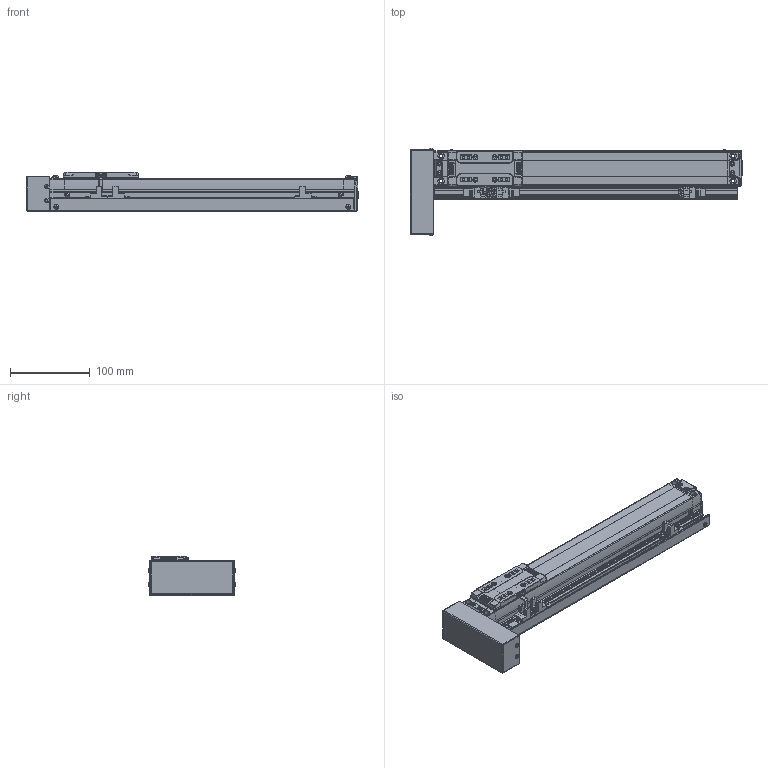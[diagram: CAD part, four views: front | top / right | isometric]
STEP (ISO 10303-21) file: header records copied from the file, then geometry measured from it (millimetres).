
FILE_DESCRIPTION(('STEP AP214'),'1');
FILE_NAME('Z:/Web/3D/SAN45/2013.ver/STP/SAN45-250PR+3SR.stp','2013-05-15T00:30:28',(' '),(' '),'Spatial InterOp 3D',' ',' ');
FILE_SCHEMA(('automotive_design'));
Length unit declared in the file: millimetre
Products named in the file (46): BODY-SAN45; REAR-SAN45; RRCV-SAN45; BHCS M3 x 6L; BHCS M3 X 6L; FRONT-SAN45; SHAFT; RN8 x 0.75; SSFX-SAN45; SLIDE-SAN45; SLCV-IM45; FHCS M3 x 6L; BTCV-SAN45; SRL-16x17-380L; EE-SX674; SBK-SX674-352; SDG-SA45; SCREW M3 x 5L
Bounding box: 416.15 x 110.13 x 50 mm (x, y, z)
Volume: 881171.4 mm3; surface area: 190864.2 mm2
Topology: 46 solids, 46 shells, 2327 faces, 6009 edges, 3859 vertices
Faces by surface type: plane 1288, cylinder 727, cone 146, sphere 84, bspline 44, torus 32, extrusion 6
Entity records: 94251 total; most frequent: CARTESIAN_POINT 16813, DIRECTION 12508, ORIENTED_EDGE 11878, EDGE_CURVE 5939, AXIS2_PLACEMENT_3D 4367, VERTEX_POINT 3859, VECTOR 3774, LINE 3768
